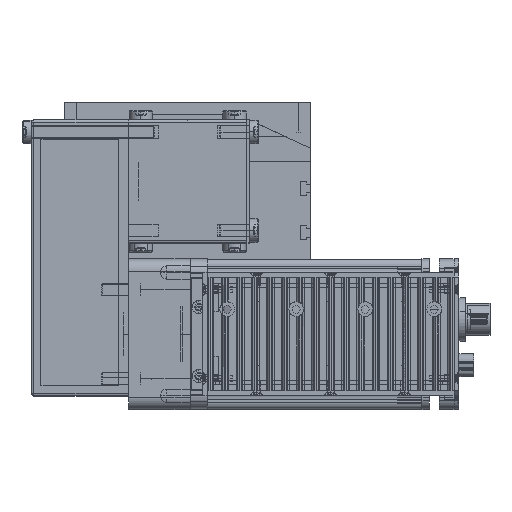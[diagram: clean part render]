
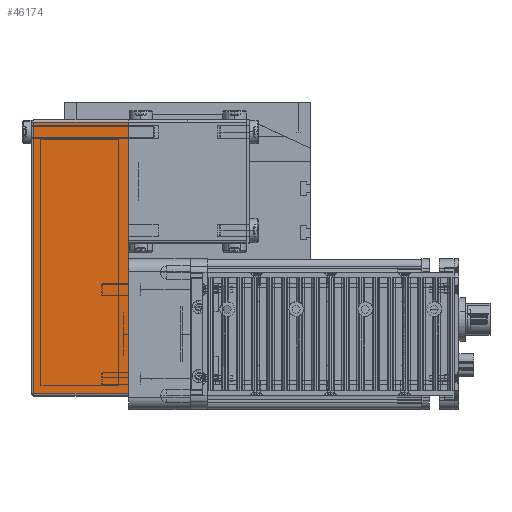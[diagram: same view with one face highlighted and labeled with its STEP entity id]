
A CAD part, top view. The second image highlights one B-rep face of the part: STEP entity #46174.
In plain terms, the highlighted planar face has unit normal (0, 0, 1) as drawn and (0, 1, 0) by its records, which use the part's own axes.
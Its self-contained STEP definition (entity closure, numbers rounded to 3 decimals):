
#16598 = LINE ( 'NONE', #16868, #17128 ) ;
#16868 = CARTESIAN_POINT ( 'NONE',  ( -50., 25., 0. ) ) ;
#17127 = DIRECTION ( 'NONE',  ( -1., 0., 0. ) ) ;
#17128 = VECTOR ( 'NONE', #17127, 1000. ) ;
#18845 = DIRECTION ( 'NONE',  ( 0., 0., -1. ) ) ;
#18846 = DIRECTION ( 'NONE',  ( 0., -1., 0. ) ) ;
#18847 = CARTESIAN_POINT ( 'NONE',  ( -50., 25., 39.5 ) ) ;
#18858 = FACE_OUTER_BOUND ( 'NONE', #46347, .T. ) ;
#18864 = AXIS2_PLACEMENT_3D ( 'NONE', #18847, #18846, #18845 ) ;
#18866 = DIRECTION ( 'NONE',  ( -1., 0., 0. ) ) ;
#18867 = VECTOR ( 'NONE', #18866, 1000. ) ;
#18871 = PLANE ( 'NONE',  #18864 ) ;
#18874 = CARTESIAN_POINT ( 'NONE',  ( -50., 25., 38.5 ) ) ;
#18875 = LINE ( 'NONE', #18874, #18867 ) ;
#21769 = CARTESIAN_POINT ( 'NONE',  ( -49., 25., 0. ) ) ;
#21802 = CARTESIAN_POINT ( 'NONE',  ( 61., 25., 0. ) ) ;
#21944 = CARTESIAN_POINT ( 'NONE',  ( -49., 25., 38.5 ) ) ;
#21973 = DIRECTION ( 'NONE',  ( 0., 0., -1. ) ) ;
#21974 = VECTOR ( 'NONE', #21973, 1000. ) ;
#21975 = CARTESIAN_POINT ( 'NONE',  ( -49., 25., 39.5 ) ) ;
#21976 = LINE ( 'NONE', #21975, #21974 ) ;
#22043 = CARTESIAN_POINT ( 'NONE',  ( 61., 25., 38.5 ) ) ;
#22046 = DIRECTION ( 'NONE',  ( 0., 0., 1. ) ) ;
#22047 = VECTOR ( 'NONE', #22046, 1000. ) ;
#22048 = CARTESIAN_POINT ( 'NONE',  ( 61., 25., 39.5 ) ) ;
#22049 = LINE ( 'NONE', #22048, #22047 ) ;
#45386 = ORIENTED_EDGE ( 'NONE', *, *, #46159, .F. ) ;
#46020 = ORIENTED_EDGE ( 'NONE', *, *, #47748, .F. ) ;
#46128 = EDGE_CURVE ( 'NONE', #47641, #47642, #16598, .T. ) ;
#46159 = EDGE_CURVE ( 'NONE', #47801, #47727, #18875, .T. ) ;
#46174 = ADVANCED_FACE ( 'NONE', ( #18858 ), #18871, .F. ) ;
#46252 = ORIENTED_EDGE ( 'NONE', *, *, #46128, .T. ) ;
#46256 = ORIENTED_EDGE ( 'NONE', *, *, #47792, .F. ) ;
#46347 = EDGE_LOOP ( 'NONE', ( #46020, #45386, #46256, #46252 ) ) ;
#47641 = VERTEX_POINT ( 'NONE', #21802 ) ;
#47642 = VERTEX_POINT ( 'NONE', #21769 ) ;
#47727 = VERTEX_POINT ( 'NONE', #21944 ) ;
#47748 = EDGE_CURVE ( 'NONE', #47727, #47642, #21976, .T. ) ;
#47792 = EDGE_CURVE ( 'NONE', #47641, #47801, #22049, .T. ) ;
#47801 = VERTEX_POINT ( 'NONE', #22043 ) ;
